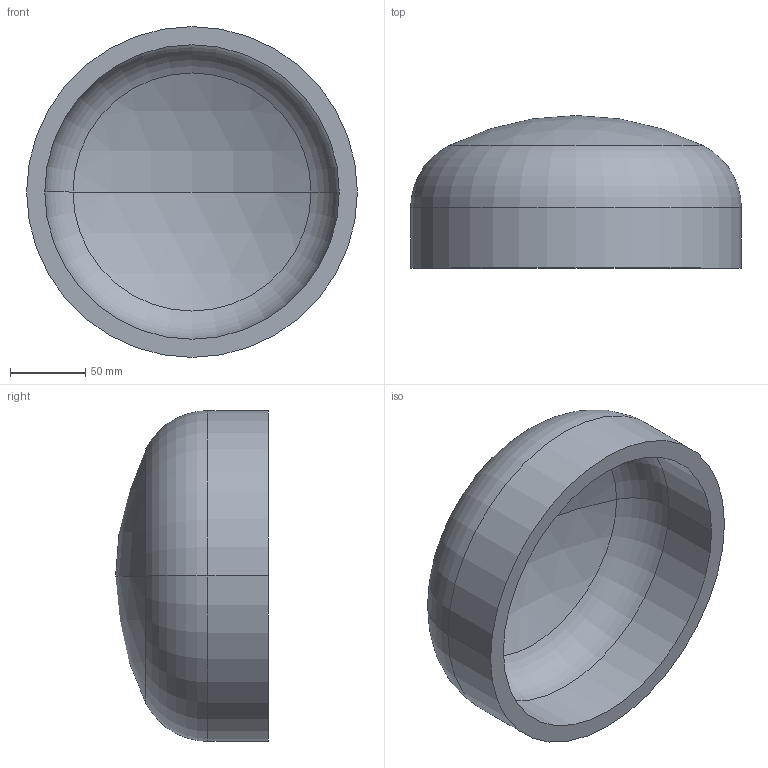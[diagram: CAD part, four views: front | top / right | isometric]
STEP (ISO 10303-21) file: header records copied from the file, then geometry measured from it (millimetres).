
FILE_DESCRIPTION (( 'STEP AP203' ), '1' );
FILE_NAME ('DIN 28013 Korbbogenform_-_Boden DIN 28013 - 219,1 x 40 - I - s=12.step', '2016-07-01T07:42:28', ( '' ), ( '' ), 'SwSTEP 2.0', 'SolidWorks 2013', '' );
FILE_SCHEMA (( 'CONFIG_CONTROL_DESIGN' ));
Length unit declared in the file: millimetre
Products named in the file (1): DIN 28013 Korbbogenform_-_Boden DIN 28013 - 219,1 x 40 - I - s=12
Bounding box: 219.1 x 101.13 x 219.1 mm (x, y, z)
Volume: 897458.2 mm3; surface area: 157685.4 mm2
Topology: 1 solids, 1 shells, 13 faces, 24 edges, 14 vertices
Faces by surface type: torus 4, cylinder 4, sphere 4, plane 1
Entity records: 407 total; most frequent: DIRECTION 72, CARTESIAN_POINT 52, ORIENTED_EDGE 48, AXIS2_PLACEMENT_3D 34, EDGE_CURVE 24, CIRCLE 20, VERTEX_POINT 14, EDGE_LOOP 14
